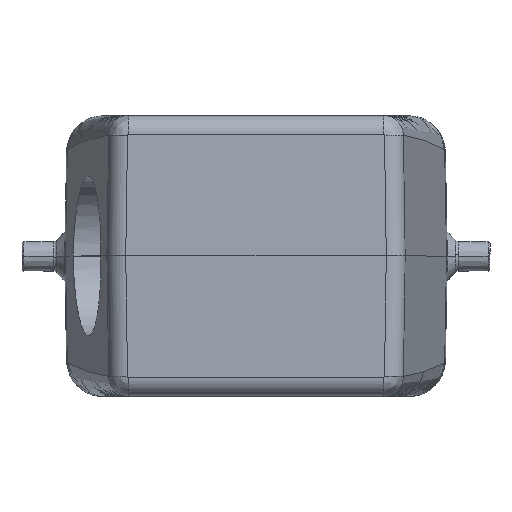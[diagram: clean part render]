
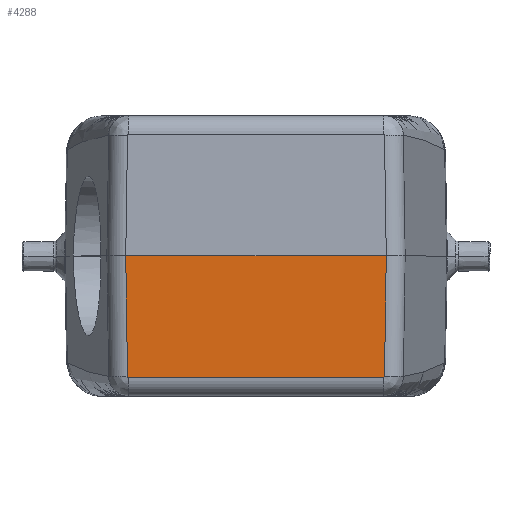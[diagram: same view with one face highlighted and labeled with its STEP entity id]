
A CAD part, top view. The second image highlights one B-rep face of the part: STEP entity #4288.
In plain terms, the highlighted planar face has unit normal (0, -0.018, 1).
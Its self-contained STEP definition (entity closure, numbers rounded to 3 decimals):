
#106 = CARTESIAN_POINT ( 'NONE',  ( 20.153, -18.917, 59.67 ) ) ;
#239 = CARTESIAN_POINT ( 'NONE',  ( 20.015, -19.052, 59.667 ) ) ;
#417 = CARTESIAN_POINT ( 'NONE',  ( -20.43, 0., 60. ) ) ;
#718 = CARTESIAN_POINT ( 'NONE',  ( 20.43, 0., 60. ) ) ;
#777 = B_SPLINE_CURVE_WITH_KNOTS ( 'NONE', 3,
 ( #1755, #10459, #7124, #5280, #19404, #106 ),
 .UNSPECIFIED., .F., .F.,
 ( 4, 2, 4 ),
 ( 0., 0.5, 1. ),
 .UNSPECIFIED. ) ;
#1564 = B_SPLINE_CURVE_WITH_KNOTS ( 'NONE', 3,
 ( #12985, #2296, #10989, #417 ),
 .UNSPECIFIED., .F., .F.,
 ( 4, 4 ),
 ( 0., 1. ),
 .UNSPECIFIED. ) ;
#1755 = CARTESIAN_POINT ( 'NONE',  ( 20.015, -19.052, 59.667 ) ) ;
#1977 = B_SPLINE_CURVE_WITH_KNOTS ( 'NONE', 3,
 ( #22740, #20790, #19171, #15552, #21023, #4979 ),
 .UNSPECIFIED., .F., .F.,
 ( 4, 2, 4 ),
 ( 0., 0.5, 1. ),
 .UNSPECIFIED. ) ;
#2296 = CARTESIAN_POINT ( 'NONE',  ( -20.245, -12.616, 59.78 ) ) ;
#2604 = EDGE_CURVE ( 'NONE', #5137, #14144, #16131, .T. ) ;
#3935 = ORIENTED_EDGE ( 'NONE', *, *, #2604, .F. ) ;
#4274 = VERTEX_POINT ( 'NONE', #5847 ) ;
#4288 = ADVANCED_FACE ( 'NONE', ( #10919 ), #5617, .T. ) ;
#4769 = CARTESIAN_POINT ( 'NONE',  ( 20.43, 0., 60. ) ) ;
#4979 = CARTESIAN_POINT ( 'NONE',  ( -20.021, -19.052, 59.667 ) ) ;
#5094 = CARTESIAN_POINT ( 'NONE',  ( -20.021, -19.052, 59.667 ) ) ;
#5137 = VERTEX_POINT ( 'NONE', #718 ) ;
#5280 = CARTESIAN_POINT ( 'NONE',  ( 20.138, -18.987, 59.669 ) ) ;
#5617 = PLANE ( 'NONE',  #14325 ) ;
#5847 = CARTESIAN_POINT ( 'NONE',  ( -20.153, -18.923, 59.67 ) ) ;
#6207 = EDGE_CURVE ( 'NONE', #19416, #14144, #777, .T. ) ;
#6246 = ORIENTED_EDGE ( 'NONE', *, *, #22481, .T. ) ;
#6726 = VECTOR ( 'NONE', #22439, 1000. ) ;
#7124 = CARTESIAN_POINT ( 'NONE',  ( 20.085, -19.039, 59.668 ) ) ;
#7391 = EDGE_CURVE ( 'NONE', #4274, #22115, #1977, .T. ) ;
#9218 = CARTESIAN_POINT ( 'NONE',  ( -20.43, 0., 60. ) ) ;
#10035 = EDGE_CURVE ( 'NONE', #4274, #16769, #1564, .T. ) ;
#10459 = CARTESIAN_POINT ( 'NONE',  ( 20.052, -19.052, 59.667 ) ) ;
#10919 = FACE_OUTER_BOUND ( 'NONE', #11774, .T. ) ;
#10989 = CARTESIAN_POINT ( 'NONE',  ( -20.338, -6.308, 59.89 ) ) ;
#11583 = DIRECTION ( 'NONE',  ( 1., 0., 0. ) ) ;
#11774 = EDGE_LOOP ( 'NONE', ( #3935, #22653, #15787, #15323, #6246, #16809 ) ) ;
#12168 = CARTESIAN_POINT ( 'NONE',  ( 20.153, -18.917, 59.67 ) ) ;
#12253 = LINE ( 'NONE', #14682, #13953 ) ;
#12985 = CARTESIAN_POINT ( 'NONE',  ( -20.153, -18.923, 59.67 ) ) ;
#13649 = LINE ( 'NONE', #16853, #14217 ) ;
#13953 = VECTOR ( 'NONE', #20195, 1000. ) ;
#14144 = VERTEX_POINT ( 'NONE', #12168 ) ;
#14217 = VECTOR ( 'NONE', #11583, 1000. ) ;
#14325 = AXIS2_PLACEMENT_3D ( 'NONE', #19735, #17955, #21508 ) ;
#14682 = CARTESIAN_POINT ( 'NONE',  ( -82.947, 0., 60. ) ) ;
#15323 = ORIENTED_EDGE ( 'NONE', *, *, #7391, .T. ) ;
#15552 = CARTESIAN_POINT ( 'NONE',  ( -20.088, -19.04, 59.668 ) ) ;
#15787 = ORIENTED_EDGE ( 'NONE', *, *, #10035, .F. ) ;
#16131 = LINE ( 'NONE', #4769, #6726 ) ;
#16769 = VERTEX_POINT ( 'NONE', #9218 ) ;
#16809 = ORIENTED_EDGE ( 'NONE', *, *, #6207, .T. ) ;
#16853 = CARTESIAN_POINT ( 'NONE',  ( -82.947, -19.052, 59.667 ) ) ;
#17955 = DIRECTION ( 'NONE',  ( 0., -0.017, 1. ) ) ;
#19171 = CARTESIAN_POINT ( 'NONE',  ( -20.139, -18.99, 59.669 ) ) ;
#19404 = CARTESIAN_POINT ( 'NONE',  ( 20.152, -18.955, 59.669 ) ) ;
#19416 = VERTEX_POINT ( 'NONE', #239 ) ;
#19735 = CARTESIAN_POINT ( 'NONE',  ( -82.947, 0., 60. ) ) ;
#20195 = DIRECTION ( 'NONE',  ( -1., 0., 0. ) ) ;
#20790 = CARTESIAN_POINT ( 'NONE',  ( -20.152, -18.959, 59.669 ) ) ;
#21023 = CARTESIAN_POINT ( 'NONE',  ( -20.057, -19.052, 59.667 ) ) ;
#21508 = DIRECTION ( 'NONE',  ( 0., -1., -0.017 ) ) ;
#21952 = EDGE_CURVE ( 'NONE', #5137, #16769, #12253, .T. ) ;
#22115 = VERTEX_POINT ( 'NONE', #5094 ) ;
#22439 = DIRECTION ( 'NONE',  ( -0.015, -1., -0.017 ) ) ;
#22481 = EDGE_CURVE ( 'NONE', #22115, #19416, #13649, .T. ) ;
#22653 = ORIENTED_EDGE ( 'NONE', *, *, #21952, .T. ) ;
#22740 = CARTESIAN_POINT ( 'NONE',  ( -20.153, -18.923, 59.67 ) ) ;
